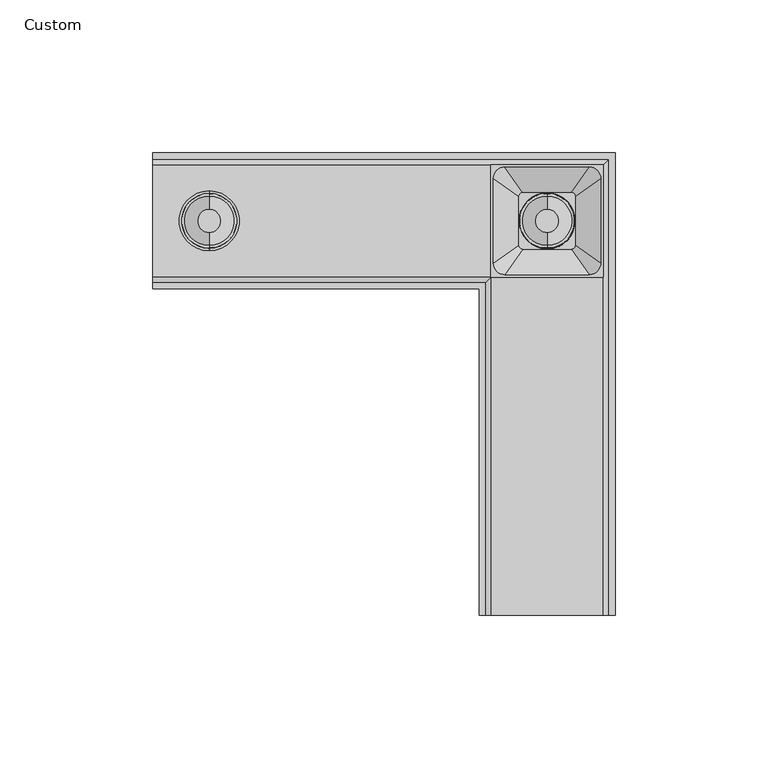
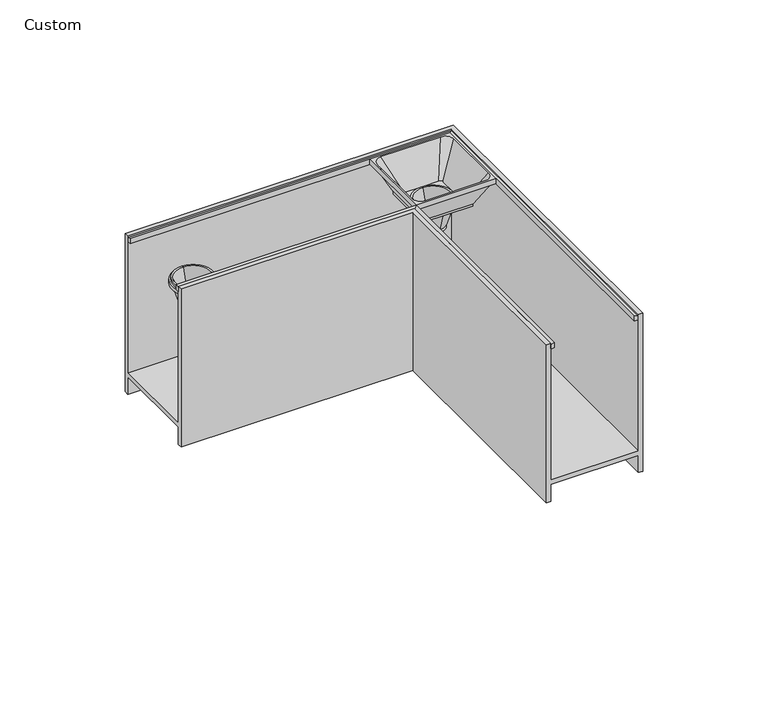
"""IFC4 building model written with IfcOpenShell, lengths in millimetres: light fixture geometry, Lighting-Pendant-Axis-Sculpt-Corner-MikroLite : Custom."""

from ifc_helpers import new_model, si_unit, point, frame, origin, place, context, project, spatial, polyline, circle_curve, ellipse_curve, trimmed, faceted_brep, source, transform, mapped, element, save
from ifc_brep_helpers import plane_surface, revolved_surface, spline_surface, advanced_brep


def custom_14597277(model_context):
    return source(origin(), model_context, "Body", "SolidModel", [
        advanced_brep(
        [(-110.49, -3.85, 658.77125), (-110.49, 3.85, 658.77125), (-110.49, 8.05, 672.47125), (-110.49, -8.05, 672.47125), (-110.49, -5.35, 658.77125), (-110.49, 5.35, 658.77125), (-110.49, -5.3865334, 660.012052), (-110.49, 5.3865334, 660.012052), (-110.49, -8.4259138, 669.87125), (-110.49, 8.4259138, 669.87125), (-110.49, -9.7360224, 669.87125), (-110.49, 9.7360224, 669.87125), (-110.49, -9.7986851, 671.3885205), (-110.49, 9.7986851, 671.3885205), (-110.49, -9.0049351, 671.3885205), (-110.49, 9.0049351, 671.3885205), (-110.49, -8.9860359, 672.47125), (-110.49, 8.9860359, 672.47125)],
        [
            (0, 1, circle_curve(frame((-110.49, 0.0, 658.77125), z_axis=(0.0, 0.0, -1.0), x_axis=(0.0, 1.0, 0.0)), 3.85)),
            (1, 2, circle_curve(frame((-110.49, 190.6586551, 608.9952391), z_axis=(-1.0, 0.0, 0.0), x_axis=(0.0, -0.9662859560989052, 0.25747126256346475)), 193.3264722)),
            (2, 3, circle_curve(frame((-110.49, 0.0, 672.47125), z_axis=(0.0, 0.0, 1.0), x_axis=(0.0, 1.0, 0.0)), 8.05)),
            (3, 0, circle_curve(frame((-110.49, -190.6586551, 608.9952391), z_axis=(-1.0, 0.0, 0.0), x_axis=(0.0, 0.9662859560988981, 0.2574712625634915)), 193.3264722)),
            (1, 0, circle_curve(frame((-110.49, 0.0, 658.77125), z_axis=(0.0, 0.0, -1.0), x_axis=(0.0, 1.0, 0.0)), 3.85)),
            (3, 2, circle_curve(frame((-110.49, 0.0, 672.47125), z_axis=(0.0, 0.0, 1.0), x_axis=(0.0, 1.0, 0.0)), 8.05)),
            (4, 5, circle_curve(frame((-110.49, 0.0, 658.77125), z_axis=(0.0, 0.0, -1.0), x_axis=(0.0, 1.0, 0.0)), 5.35)),
            (5, 1),
            (0, 4),
            (5, 4, circle_curve(frame((-110.49, 0.0, 658.77125), z_axis=(0.0, 0.0, -1.0), x_axis=(0.0, 1.0, 0.0)), 5.35)),
            (6, 7, circle_curve(frame((-110.49, 0.0, 660.012052), z_axis=(0.0, 0.0, -1.0), x_axis=(0.0, 1.0, 0.0)), 5.3865334)),
            (7, 5),
            (4, 6),
            (7, 6, circle_curve(frame((-110.49, 0.0, 660.012052), z_axis=(0.0, 0.0, -1.0), x_axis=(0.0, 1.0, 0.0)), 5.3865334)),
            (8, 9, circle_curve(frame((-110.49, 0.0, 669.87125), z_axis=(0.0, 0.0, -1.0), x_axis=(0.0, 1.0, 0.0)), 8.4259138)),
            (9, 7, circle_curve(frame((-110.49, 178.3166089, 612.0994861), z_axis=(1.0, 0.0, 0.0), x_axis=(0.0, -0.9467575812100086, 0.32194732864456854)), 179.4447686)),
            (6, 8, circle_curve(frame((-110.49, -178.3166089, 612.0994861), z_axis=(1.0, 0.0, 0.0), x_axis=(0.0, 0.9467575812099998, 0.32194732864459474)), 179.4447686)),
            (9, 8, circle_curve(frame((-110.49, 0.0, 669.87125), z_axis=(0.0, 0.0, -1.0), x_axis=(0.0, 1.0, 0.0)), 8.4259138)),
            (10, 11, circle_curve(frame((-110.49, 0.0, 669.87125), z_axis=(0.0, 0.0, -1.0), x_axis=(0.0, 1.0, 0.0)), 9.7360224)),
            (11, 9),
            (8, 10),
            (11, 10, circle_curve(frame((-110.49, 0.0, 669.87125), z_axis=(0.0, 0.0, -1.0), x_axis=(0.0, 1.0, 0.0)), 9.7360224)),
            (12, 13, circle_curve(frame((-110.49, 0.0, 671.3885205), z_axis=(0.0, 0.0, -1.0), x_axis=(0.0, 1.0, 0.0)), 9.7986851)),
            (13, 11),
            (10, 12),
            (13, 12, circle_curve(frame((-110.49, 0.0, 671.3885205), z_axis=(0.0, 0.0, -1.0), x_axis=(0.0, 1.0, 0.0)), 9.7986851)),
            (14, 15, circle_curve(frame((-110.49, 0.0, 671.3885205), z_axis=(0.0, 0.0, -1.0), x_axis=(0.0, 1.0, 0.0)), 9.0049351)),
            (15, 13),
            (12, 14),
            (15, 14, circle_curve(frame((-110.49, 0.0, 671.3885205), z_axis=(0.0, 0.0, -1.0), x_axis=(0.0, 1.0, 0.0)), 9.0049351)),
            (16, 17, circle_curve(frame((-110.49, 0.0, 672.47125), z_axis=(0.0, 0.0, -1.0), x_axis=(0.0, 1.0, 0.0)), 8.9860359)),
            (17, 15),
            (14, 16),
            (17, 16, circle_curve(frame((-110.49, 0.0, 672.47125), z_axis=(0.0, 0.0, -1.0), x_axis=(0.0, 1.0, 0.0)), 8.9860359)),
            (2, 17),
            (16, 3),
        ],
        [
            revolved_surface(trimmed(ellipse_curve(frame((-110.49, 190.6586551, 608.9952391), z_axis=(1.0, 0.0, 0.0), x_axis=(0.0, -0.9662859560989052, 0.25747126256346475)), 193.3264722, 193.3264722), [point((-110.49, 8.05, 672.47125))], [point((-110.49, 3.85, 658.77125))], True, "CARTESIAN"), (-110.49, 0.0, 3030.4005443), (0.0, 0.0, 1.0)),
            plane_surface(frame((-110.49, 0.0, 658.77125), z_axis=(0.0, 0.0, -1.0), x_axis=(0.0, 1.0, 0.0))),
            revolved_surface(polyline([(-110.49, 5.35, 658.77125), (-110.49, 5.3865334, 660.012052)]), (-110.49, 0.0, 3030.4005443), (0.0, 0.0, 1.0)),
            revolved_surface(trimmed(ellipse_curve(frame((-110.49, 178.3166089, 612.0994861), z_axis=(-1.0, 0.0, 0.0), x_axis=(0.0, -0.9467575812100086, 0.32194732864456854)), 179.4447686, 179.4447686), [point((-110.49, 5.3865334, 660.012052))], [point((-110.49, 8.4259138, 669.87125))], True, "CARTESIAN"), (-110.49, 0.0, 3030.4005443), (0.0, 0.0, 1.0)),
            plane_surface(frame((-110.49, 0.0, 669.87125), z_axis=(0.0, 0.0, -1.0), x_axis=(0.0, 1.0, 0.0))),
            revolved_surface(polyline([(-110.49, 9.7360224, 669.87125), (-110.49, 9.7986851, 671.3885205)]), (-110.49, 0.0, 3030.4005443), (0.0, 0.0, 1.0)),
            plane_surface(frame((-110.49, 0.0, 671.3885205), z_axis=(0.0, 0.0, 1.0), x_axis=(0.0, 1.0, 0.0))),
            revolved_surface(polyline([(-110.49, 9.0049351, 671.3885205), (-110.49, 8.9860359, 672.47125)]), (-110.49, 0.0, 3030.4005443), (0.0, 0.0, 1.0)),
            plane_surface(frame((-110.49, 0.0, 672.47125), z_axis=(0.0, 0.0, 1.0), x_axis=(0.0, 1.0, 0.0))),
        ],
        [
            (0, [[1, 2, 3, 4]]),
            (0, [[5, -4, 6, -2]]),
            (1, [[7, 8, -1, 9]]),
            (1, [[10, -9, -5, -8]]),
            (2, [[11, 12, -7, 13]]),
            (2, [[14, -13, -10, -12]]),
            (3, [[15, 16, -11, 17]]),
            (3, [[18, -17, -14, -16]]),
            (4, [[19, 20, -15, 21]]),
            (4, [[22, -21, -18, -20]]),
            (5, [[23, 24, -19, 25]]),
            (5, [[26, -25, -22, -24]]),
            (6, [[27, 28, -23, 29]]),
            (6, [[30, -29, -26, -28]]),
            (7, [[31, 32, -27, 33]]),
            (7, [[34, -33, -30, -32]]),
            (8, [[-3, 35, -31, 36]]),
            (8, [[-6, -36, -34, -35]]),
        ],
    ),
        advanced_brep(
        [(-11.5702329, 11.5702329, 672.4768563), (-11.5702329, 11.5702329, 671.3885205), (-11.5702329, -11.5702329, 671.3885205), (-11.5702329, -11.5702329, 672.4768563), (-17.2355213, -17.2355213, 684.05375), (-17.2355213, 17.2355213, 684.05375), (-18.415, 18.415, 686.59375), (-18.415, 18.415, 684.05375), (-18.415, -18.415, 684.05375), (-18.415, -18.415, 686.59375), (11.5702329, -11.5702329, 671.3885205), (11.5702329, -11.5702329, 672.4768563), (17.2355213, -17.2355213, 684.05375), (18.415, -18.415, 684.05375), (18.415, -18.415, 686.59375), (11.5702329, 11.5702329, 671.3885205), (11.5702329, 11.5702329, 672.4768563), (17.2355213, 17.2355213, 684.05375), (18.415, 18.415, 684.05375), (18.415, 18.415, 686.59375), (-17.5895, -13.7795, 686.59375), (-17.5895, 13.7795, 686.59375), (-13.7795, 17.5895, 686.59375), (13.7795, 17.5895, 686.59375), (17.5895, 13.7795, 686.59375), (17.5895, -13.7795, 686.59375), (13.7795, -17.5895, 686.59375), (-13.7795, -17.5895, 686.59375), (0.0, 9.1446644, 671.3885205), (0.0, -9.1446644, 671.3885205), (-9.2138442, -7.9438442, 672.17925), (-7.9438442, -9.2138442, 672.17925), (0.0, -9.2138442, 672.17925), (-9.2138442, 0.0, 672.17925), (7.9438442, -9.2138442, 672.17925), (9.2138442, -7.9438442, 672.17925), (9.2138442, 0.0, 672.17925), (9.2138442, 7.9438442, 672.17925), (7.9438442, 9.2138442, 672.17925), (0.0, 9.2138442, 672.17925), (-7.9438442, 9.2138442, 672.17925), (-9.2138442, 7.9438442, 672.17925)],
        [
            (0, 1),
            (1, 2),
            (2, 3),
            (3, 0),
            (3, 4),
            (4, 5),
            (5, 0),
            (6, 7),
            (7, 8),
            (8, 9),
            (9, 6),
            (2, 10),
            (10, 11),
            (11, 3),
            (11, 12),
            (12, 4),
            (8, 13),
            (13, 14),
            (14, 9),
            (10, 15),
            (15, 16),
            (16, 11),
            (16, 17),
            (17, 12),
            (13, 18),
            (18, 19),
            (19, 14),
            (0, 16),
            (15, 1),
            (5, 17),
            (7, 18),
            (6, 19),
            (20, 21),
            (21, 22, circle_curve(frame((-13.7795, 13.7795, 686.59375), z_axis=(0.0, 0.0, -1.0), x_axis=(1.0, 0.0, 0.0)), 3.81)),
            (22, 23),
            (23, 24, circle_curve(frame((13.7795, 13.7795, 686.59375), z_axis=(0.0, 0.0, -1.0), x_axis=(1.0, 0.0, 0.0)), 3.81)),
            (24, 25),
            (25, 26, circle_curve(frame((13.7795, -13.7795, 686.59375), z_axis=(0.0, 0.0, -1.0), x_axis=(1.0, 0.0, 0.0)), 3.81)),
            (26, 27),
            (27, 20, circle_curve(frame((-13.7795, -13.7795, 686.59375), z_axis=(0.0, 0.0, -1.0), x_axis=(1.0, 0.0, 0.0)), 3.81)),
            (28, 29, circle_curve(frame((0.0, 0.0, 671.3885205), z_axis=(0.0, 0.0, 1.0), x_axis=(0.0, 1.0, 0.0)), 9.1446644)),
            (29, 28, circle_curve(frame((0.0, 0.0, 671.3885205), z_axis=(0.0, 0.0, 1.0), x_axis=(0.0, 1.0, 0.0)), 9.1446644)),
            (30, 31, circle_curve(frame((-7.9438442, -7.9438442, 672.17925), z_axis=(0.0, 0.0, 1.0), x_axis=(1.0, 0.0, 0.0)), 1.27)),
            (31, 32),
            (32, 33, circle_curve(frame((0.0, 0.0, 672.17925), z_axis=(0.0, 0.0, -1.0), x_axis=(0.0, 1.0, 0.0)), 9.2138442)),
            (33, 30),
            (34, 35, circle_curve(frame((7.9438442, -7.9438442, 672.17925), z_axis=(0.0, 0.0, 1.0), x_axis=(1.0, 0.0, 0.0)), 1.27)),
            (35, 36),
            (36, 32, circle_curve(frame((0.0, 0.0, 672.17925), z_axis=(0.0, 0.0, -1.0), x_axis=(0.0, 1.0, 0.0)), 9.2138442)),
            (32, 34),
            (37, 38, circle_curve(frame((7.9438442, 7.9438442, 672.17925), z_axis=(0.0, 0.0, 1.0), x_axis=(1.0, 0.0, 0.0)), 1.27)),
            (38, 39),
            (39, 36, circle_curve(frame((0.0, 0.0, 672.17925), z_axis=(0.0, 0.0, -1.0), x_axis=(0.0, 1.0, 0.0)), 9.2138442)),
            (36, 37),
            (40, 41, circle_curve(frame((-7.9438442, 7.9438442, 672.17925), z_axis=(0.0, 0.0, 1.0), x_axis=(1.0, 0.0, 0.0)), 1.27)),
            (41, 33),
            (33, 39, circle_curve(frame((0.0, 0.0, 672.17925), z_axis=(0.0, 0.0, -1.0), x_axis=(0.0, 1.0, 0.0)), 9.2138442)),
            (39, 40),
            (20, 30),
            (41, 21),
            (27, 31),
            (26, 34),
            (25, 35),
            (24, 37),
            (23, 38),
            (22, 40),
            (32, 29),
            (28, 39),
        ],
        [
            plane_surface(frame((-11.5702329, 11.5702329, 671.3885205), z_axis=(-1.0, 0.0, 0.0), x_axis=(0.0, -1.0, 0.0))),
            plane_surface(frame((-11.5702329, 11.5702329, 672.4768563), z_axis=(-0.8982167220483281, 0.0, -0.43955286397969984), x_axis=(0.0, -1.0, 0.0))),
            plane_surface(frame((-18.415, 18.415, 684.05375), z_axis=(-1.0, 0.0, 0.0), x_axis=(0.0, -1.0, 0.0))),
            plane_surface(frame((-11.5702329, -11.5702329, 671.3885205), z_axis=(0.0, -1.0, 0.0), x_axis=(1.0, 0.0, 0.0))),
            plane_surface(frame((-11.5702329, -11.5702329, 672.4768563), z_axis=(0.0, -0.8982167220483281, -0.43955286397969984), x_axis=(1.0, 0.0, 0.0))),
            plane_surface(frame((-18.415, -18.415, 684.05375), z_axis=(0.0, -1.0, 0.0), x_axis=(1.0, 0.0, 0.0))),
            plane_surface(frame((11.5702329, -11.5702329, 671.3885205), z_axis=(1.0, 0.0, 0.0), x_axis=(0.0, 1.0, 0.0))),
            plane_surface(frame((11.5702329, -11.5702329, 672.4768563), z_axis=(0.8982167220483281, 0.0, -0.43955286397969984), x_axis=(0.0, 1.0, 0.0))),
            plane_surface(frame((18.415, -18.415, 684.05375), z_axis=(1.0, 0.0, 0.0), x_axis=(0.0, 1.0, 0.0))),
            plane_surface(frame((11.5702329, 11.5702329, 671.3885205), z_axis=(0.0, 1.0, 0.0), x_axis=(-1.0, 0.0, 0.0))),
            plane_surface(frame((11.5702329, 11.5702329, 672.4768563), z_axis=(0.0, 0.8982167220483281, -0.43955286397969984), x_axis=(-1.0, 0.0, 0.0))),
            plane_surface(frame((17.2355213, 17.2355213, 684.05375), z_axis=(0.0, 0.0, -1.0), x_axis=(-1.0, 0.0, 0.0))),
            plane_surface(frame((18.415, 18.415, 684.05375), z_axis=(0.0, 1.0, 0.0), x_axis=(-1.0, 0.0, 0.0))),
            plane_surface(frame((18.415, 18.415, 686.59375), z_axis=(0.0, 0.0, 1.0), x_axis=(-1.0, 0.0, 0.0))),
            plane_surface(frame((0.0, 0.0, 671.3885205), z_axis=(0.0, 0.0, -1.0), x_axis=(-1.0, 0.0, 0.0))),
            plane_surface(frame((0.0, 0.0, 672.17925), z_axis=(0.0, 0.0, 1.0), x_axis=(0.0, -1.0, 0.0))),
            plane_surface(frame((-17.5895, 0.0, 686.59375), z_axis=(0.8646340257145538, 0.0, 0.5024022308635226), x_axis=(0.0, 1.0, 0.0))),
            spline_surface(1, 2, [[(-13.7795, -17.5895, 686.59375), (-17.5895, -17.5895, 686.59375), (-17.5895, -13.7795, 686.59375)], [(-7.9438442, -9.2138442, 672.17925), (-9.2138442, -9.2138442, 672.17925), (-9.2138442, -7.9438442, 672.17925)]], [2, 2], [3, 3], [0.0, 1.0], [0.0, 1.0], weights=[[1.0, 0.7071067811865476, 1.0], [1.0, 0.7071067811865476, 1.0]]),
            plane_surface(frame((0.0, -17.5895, 686.59375), z_axis=(0.0, 0.8646340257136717, 0.5024022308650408), x_axis=(-1.0, 0.0, 0.0))),
            spline_surface(1, 2, [[(17.5895, -13.7795, 686.59375), (17.5895, -17.5895, 686.59375), (13.7795, -17.5895, 686.59375)], [(9.2138442, -7.9438442, 672.17925), (9.2138442, -9.2138442, 672.17925), (7.9438442, -9.2138442, 672.17925)]], [2, 2], [3, 3], [0.0, 1.0], [0.0, 1.0], weights=[[1.0, 0.7071067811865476, 1.0], [1.0, 0.7071067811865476, 1.0]]),
            plane_surface(frame((17.5895, 0.0, 686.59375), z_axis=(-0.8646340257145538, 0.0, 0.5024022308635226), x_axis=(0.0, -1.0, 0.0))),
            spline_surface(1, 2, [[(13.7795, 17.5895, 686.59375), (17.5895, 17.5895, 686.59375), (17.5895, 13.7795, 686.59375)], [(7.9438442, 9.2138442, 672.17925), (9.2138442, 9.2138442, 672.17925), (9.2138442, 7.9438442, 672.17925)]], [2, 2], [3, 3], [0.0, 1.0], [0.0, 1.0], weights=[[1.0, 0.7071067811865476, 1.0], [1.0, 0.7071067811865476, 1.0]]),
            plane_surface(frame((0.0, 17.5895, 686.59375), z_axis=(0.0, -0.8646340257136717, 0.5024022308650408), x_axis=(1.0, 0.0, 0.0))),
            spline_surface(1, 2, [[(-17.5895, 13.7795, 686.59375), (-17.5895, 17.5895, 686.59375), (-13.7795, 17.5895, 686.59375)], [(-9.2138442, 7.9438442, 672.17925), (-9.2138442, 9.2138442, 672.17925), (-7.9438442, 9.2138442, 672.17925)]], [2, 2], [3, 3], [0.0, 1.0], [0.0, 1.0], weights=[[1.0, 0.7071067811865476, 1.0], [1.0, 0.7071067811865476, 1.0]]),
            revolved_surface(polyline([(0.0, 9.2138442, 672.17925), (0.0, 9.1446644, 671.3885205)]), (0.0, 0.0, 3030.4005443), (0.0, 0.0, 1.0)),
        ],
        [
            (0, [[1, 2, 3, 4]]),
            (1, [[-4, 5, 6, 7]]),
            (2, [[8, 9, 10, 11]]),
            (3, [[-3, 12, 13, 14]]),
            (4, [[-5, -14, 15, 16]]),
            (5, [[-10, 17, 18, 19]]),
            (6, [[-13, 20, 21, 22]]),
            (7, [[-15, -22, 23, 24]]),
            (8, [[-18, 25, 26, 27]]),
            (9, [[-1, 28, -21, 29]]),
            (10, [[-7, 30, -23, -28]]),
            (11, [[-9, 31, -25, -17], [-6, -16, -24, -30]]),
            (12, [[-8, 32, -26, -31]]),
            (13, [[-11, -19, -27, -32], [33, 34, 35, 36, 37, 38, 39, 40]]),
            (14, [[-2, -29, -20, -12], [41, 42]]),
            (15, [[43, 44, 45, 46]]),
            (15, [[47, 48, 49, 50]]),
            (15, [[51, 52, 53, 54]]),
            (15, [[55, 56, 57, 58]]),
            (16, [[59, -46, -56, 60, -33]]),
            (17, [[-43, -59, -40, 61]]),
            (18, [[-61, -39, 62, -50, -44]]),
            (19, [[-47, -62, -38, 63]]),
            (20, [[-63, -37, 64, -54, -48]]),
            (21, [[-51, -64, -36, 65]]),
            (22, [[-65, -35, 66, -58, -52]]),
            (23, [[-55, -66, -34, -60]]),
            (24, [[67, -41, 68, -57, -45]]),
            (24, [[-67, -49, -53, -68, -42]]),
        ],
    ),
        advanced_brep(
        [(0.0, -3.85, 658.77125), (0.0, 3.85, 658.77125), (0.0, 8.05, 672.47125), (0.0, -8.05, 672.47125), (0.0, -5.35, 658.77125), (0.0, 5.35, 658.77125), (0.0, -5.3865334, 660.012052), (0.0, 5.3865334, 660.012052), (0.0, -8.4259138, 669.87125), (0.0, 8.4259138, 669.87125), (0.0, -9.7360224, 669.87125), (0.0, 9.7360224, 669.87125), (0.0, -9.7986851, 671.3885205), (0.0, 9.7986851, 671.3885205), (0.0, -9.0049351, 671.3885205), (0.0, 9.0049351, 671.3885205), (0.0, -8.9860359, 672.47125), (0.0, 8.9860359, 672.47125)],
        [
            (0, 1, circle_curve(frame((0.0, 0.0, 658.77125), z_axis=(0.0, 0.0, -1.0), x_axis=(0.0, 1.0, 0.0)), 3.85)),
            (1, 2, circle_curve(frame((0.0, 190.6586551, 608.9952391), z_axis=(-1.0, 0.0, 0.0), x_axis=(0.0, -0.9662859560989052, 0.25747126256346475)), 193.3264722)),
            (2, 3, circle_curve(frame((0.0, 0.0, 672.47125), z_axis=(0.0, 0.0, 1.0), x_axis=(0.0, 1.0, 0.0)), 8.05)),
            (3, 0, circle_curve(frame((0.0, -190.6586551, 608.9952391), z_axis=(-1.0, 0.0, 0.0), x_axis=(0.0, 0.9662859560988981, 0.2574712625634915)), 193.3264722)),
            (1, 0, circle_curve(frame((0.0, 0.0, 658.77125), z_axis=(0.0, 0.0, -1.0), x_axis=(0.0, 1.0, 0.0)), 3.85)),
            (3, 2, circle_curve(frame((0.0, 0.0, 672.47125), z_axis=(0.0, 0.0, 1.0), x_axis=(0.0, 1.0, 0.0)), 8.05)),
            (4, 5, circle_curve(frame((0.0, 0.0, 658.77125), z_axis=(0.0, 0.0, -1.0), x_axis=(0.0, 1.0, 0.0)), 5.35)),
            (5, 1),
            (0, 4),
            (5, 4, circle_curve(frame((0.0, 0.0, 658.77125), z_axis=(0.0, 0.0, -1.0), x_axis=(0.0, 1.0, 0.0)), 5.35)),
            (6, 7, circle_curve(frame((0.0, 0.0, 660.012052), z_axis=(0.0, 0.0, -1.0), x_axis=(0.0, 1.0, 0.0)), 5.3865334)),
            (7, 5),
            (4, 6),
            (7, 6, circle_curve(frame((0.0, 0.0, 660.012052), z_axis=(0.0, 0.0, -1.0), x_axis=(0.0, 1.0, 0.0)), 5.3865334)),
            (8, 9, circle_curve(frame((0.0, 0.0, 669.87125), z_axis=(0.0, 0.0, -1.0), x_axis=(0.0, 1.0, 0.0)), 8.4259138)),
            (9, 7, circle_curve(frame((0.0, 178.3166089, 612.0994861), z_axis=(1.0, 0.0, 0.0), x_axis=(0.0, -0.9467575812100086, 0.32194732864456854)), 179.4447686)),
            (6, 8, circle_curve(frame((0.0, -178.3166089, 612.0994861), z_axis=(1.0, 0.0, 0.0), x_axis=(0.0, 0.9467575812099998, 0.32194732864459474)), 179.4447686)),
            (9, 8, circle_curve(frame((0.0, 0.0, 669.87125), z_axis=(0.0, 0.0, -1.0), x_axis=(0.0, 1.0, 0.0)), 8.4259138)),
            (10, 11, circle_curve(frame((0.0, 0.0, 669.87125), z_axis=(0.0, 0.0, -1.0), x_axis=(0.0, 1.0, 0.0)), 9.7360224)),
            (11, 9),
            (8, 10),
            (11, 10, circle_curve(frame((0.0, 0.0, 669.87125), z_axis=(0.0, 0.0, -1.0), x_axis=(0.0, 1.0, 0.0)), 9.7360224)),
            (12, 13, circle_curve(frame((0.0, 0.0, 671.3885205), z_axis=(0.0, 0.0, -1.0), x_axis=(0.0, 1.0, 0.0)), 9.7986851)),
            (13, 11),
            (10, 12),
            (13, 12, circle_curve(frame((0.0, 0.0, 671.3885205), z_axis=(0.0, 0.0, -1.0), x_axis=(0.0, 1.0, 0.0)), 9.7986851)),
            (14, 15, circle_curve(frame((0.0, 0.0, 671.3885205), z_axis=(0.0, 0.0, -1.0), x_axis=(0.0, 1.0, 0.0)), 9.0049351)),
            (15, 13),
            (12, 14),
            (15, 14, circle_curve(frame((0.0, 0.0, 671.3885205), z_axis=(0.0, 0.0, -1.0), x_axis=(0.0, 1.0, 0.0)), 9.0049351)),
            (16, 17, circle_curve(frame((0.0, 0.0, 672.47125), z_axis=(0.0, 0.0, -1.0), x_axis=(0.0, 1.0, 0.0)), 8.9860359)),
            (17, 15),
            (14, 16),
            (17, 16, circle_curve(frame((0.0, 0.0, 672.47125), z_axis=(0.0, 0.0, -1.0), x_axis=(0.0, 1.0, 0.0)), 8.9860359)),
            (2, 17),
            (16, 3),
        ],
        [
            revolved_surface(trimmed(ellipse_curve(frame((0.0, 190.6586551, 608.9952391), z_axis=(1.0, 0.0, 0.0), x_axis=(0.0, -0.9662859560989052, 0.25747126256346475)), 193.3264722, 193.3264722), [point((0.0, 8.05, 672.47125))], [point((0.0, 3.85, 658.77125))], True, "CARTESIAN"), (0.0, 0.0, 3030.4005443), (0.0, 0.0, 1.0)),
            plane_surface(frame((0.0, 0.0, 658.77125), z_axis=(0.0, 0.0, -1.0), x_axis=(0.0, 1.0, 0.0))),
            revolved_surface(polyline([(0.0, 5.35, 658.77125), (0.0, 5.3865334, 660.012052)]), (0.0, 0.0, 3030.4005443), (0.0, 0.0, 1.0)),
            revolved_surface(trimmed(ellipse_curve(frame((0.0, 178.3166089, 612.0994861), z_axis=(-1.0, 0.0, 0.0), x_axis=(0.0, -0.9467575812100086, 0.32194732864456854)), 179.4447686, 179.4447686), [point((0.0, 5.3865334, 660.012052))], [point((0.0, 8.4259138, 669.87125))], True, "CARTESIAN"), (0.0, 0.0, 3030.4005443), (0.0, 0.0, 1.0)),
            plane_surface(frame((0.0, 0.0, 669.87125), z_axis=(0.0, 0.0, -1.0), x_axis=(0.0, 1.0, 0.0))),
            revolved_surface(polyline([(0.0, 9.7360224, 669.87125), (0.0, 9.7986851, 671.3885205)]), (0.0, 0.0, 3030.4005443), (0.0, 0.0, 1.0)),
            plane_surface(frame((0.0, 0.0, 671.3885205), z_axis=(0.0, 0.0, 1.0), x_axis=(0.0, 1.0, 0.0))),
            revolved_surface(polyline([(0.0, 9.0049351, 671.3885205), (0.0, 8.9860359, 672.47125)]), (0.0, 0.0, 3030.4005443), (0.0, 0.0, 1.0)),
            plane_surface(frame((0.0, 0.0, 672.47125), z_axis=(0.0, 0.0, 1.0), x_axis=(0.0, 1.0, 0.0))),
        ],
        [
            (0, [[1, 2, 3, 4]]),
            (0, [[5, -4, 6, -2]]),
            (1, [[7, 8, -1, 9]]),
            (1, [[10, -9, -5, -8]]),
            (2, [[11, 12, -7, 13]]),
            (2, [[14, -13, -10, -12]]),
            (3, [[15, 16, -11, 17]]),
            (3, [[18, -17, -14, -16]]),
            (4, [[19, 20, -15, 21]]),
            (4, [[22, -21, -18, -20]]),
            (5, [[23, 24, -19, 25]]),
            (5, [[26, -25, -22, -24]]),
            (6, [[27, 28, -23, 29]]),
            (6, [[30, -29, -26, -28]]),
            (7, [[31, 32, -27, 33]]),
            (7, [[34, -33, -30, -32]]),
            (8, [[-3, 35, -31, 36]]),
            (8, [[-6, -36, -34, -35]]),
        ],
    ),
        faceted_brep([(-128.905, 20.0025, 684.05375), (-128.905, 18.415, 684.05375), (-128.905, 18.415, 686.59375), (-128.905, 20.0025, 686.0159473), (20.0025, -128.905, 684.05375), (20.0025, -128.905, 686.0159473), (18.415, -128.905, 686.59375), (18.415, -128.905, 684.05375), (20.0025, 20.0025, 684.05375), (18.415, 18.415, 684.05375), (18.415, 18.415, 686.59375), (20.0025, 20.0025, 686.0159473)], [[[0, 1, 2, 3]], [[4, 5, 6, 7]], [[1, 0, 8, 4, 7, 9]], [[2, 1, 9, 10]], [[3, 2, 10, 11]], [[0, 3, 11, 8]], [[10, 9, 7, 6]], [[11, 10, 6, 5]], [[8, 11, 5, 4]]]),
        faceted_brep([(-128.905, -20.0025, 684.05375), (-128.905, -20.0025, 686.0159473), (-128.905, -18.415, 686.59375), (-128.905, -18.415, 684.05375), (-20.0025, -128.905, 684.05375), (-18.415, -128.905, 684.05375), (-18.415, -128.905, 686.59375), (-20.0025, -128.905, 686.0159473), (-20.0025, -20.0025, 684.05375), (-20.0025, -20.0025, 686.0159473), (-18.415, -18.415, 686.59375), (-18.415, -18.415, 684.05375)], [[[0, 1, 2, 3]], [[4, 5, 6, 7]], [[1, 0, 8, 9]], [[2, 1, 9, 10]], [[3, 2, 10, 11]], [[0, 3, 11, 5, 4, 8]], [[9, 8, 4, 7]], [[10, 9, 7, 6]], [[11, 10, 6, 5]]]),
        faceted_brep([(20.193, -128.905, 620.0775), (-20.193, -128.905, 620.0775), (-20.193, -128.905, 686.59375), (-22.225, -128.905, 686.59375), (-22.225, -128.905, 609.6), (-20.193, -128.905, 609.6), (-20.193, -128.905, 618.0455), (20.193, -128.905, 618.0455), (20.193, -128.905, 609.6), (22.225, -128.905, 609.6), (22.225, -128.905, 686.59375), (20.193, -128.905, 686.59375), (-128.905, 20.193, 620.0775), (-128.905, 20.193, 686.59375), (-128.905, 22.225, 686.59375), (-128.905, 22.225, 609.6), (-128.905, 20.193, 609.6), (-128.905, 20.193, 618.0455), (-128.905, -20.193, 618.0455), (-128.905, -20.193, 609.6), (-128.905, -22.225, 609.6), (-128.905, -22.225, 686.59375), (-128.905, -20.193, 686.59375), (-128.905, -20.193, 620.0775), (-20.193, -20.193, 686.59375), (-20.193, -20.193, 620.0775), (-22.225, -22.225, 609.6), (-22.225, -22.225, 686.59375), (-20.193, -20.193, 618.0455), (-20.193, -20.193, 609.6), (20.193, 20.193, 609.6), (20.193, 20.193, 618.0455), (22.225, 22.225, 686.59375), (22.225, 22.225, 609.6), (20.193, 20.193, 620.0775), (20.193, 20.193, 686.59375)], [[[0, 1, 2, 3, 4, 5, 6, 7, 8, 9, 10, 11]], [[12, 13, 14, 15, 16, 17, 18, 19, 20, 21, 22, 23]], [[24, 25, 23, 22]], [[26, 27, 21, 20]], [[28, 29, 19, 18]], [[30, 31, 17, 16]], [[32, 33, 15, 14]], [[34, 35, 13, 12]], [[1, 0, 34, 12, 23, 25]], [[2, 1, 25, 24]], [[3, 2, 24, 22, 21, 27]], [[4, 3, 27, 26]], [[5, 4, 26, 20, 19, 29]], [[6, 5, 29, 28]], [[7, 6, 28, 18, 17, 31]], [[8, 7, 31, 30]], [[9, 8, 30, 16, 15, 33]], [[10, 9, 33, 32]], [[11, 10, 32, 14, 13, 35]], [[0, 11, 35, 34]]]),
    ])


if __name__ == "__main__":
    model = new_model("IFC4")
    model_context = context("Model", 3, world=origin())
    ifc_project = project(units=[si_unit("LENGTHUNIT", "METRE", prefix="MILLI")], contexts=[model_context])
    site = spatial("IfcSite", under=ifc_project)
    building = spatial("IfcBuilding", under=site)
    placement = place(None, origin())
    custom_shape = custom_14597277(model_context)
    element("IfcLightFixture", 1, ObjectType="Lighting-Pendant-Axis-Sculpt-Corner-MikroLite : Custom", at=placement, inside=building, context=model_context, shape_type="MappedRepresentation", body=[
        mapped(custom_shape, transform((0.0, 0.0, 0.0), x_axis=(1.0, 0.0, 0.0), y_axis=(0.0, 1.0, 0.0), z_axis=(0.0, 0.0, 1.0))),
    ])
    save(model, "model.ifc")
